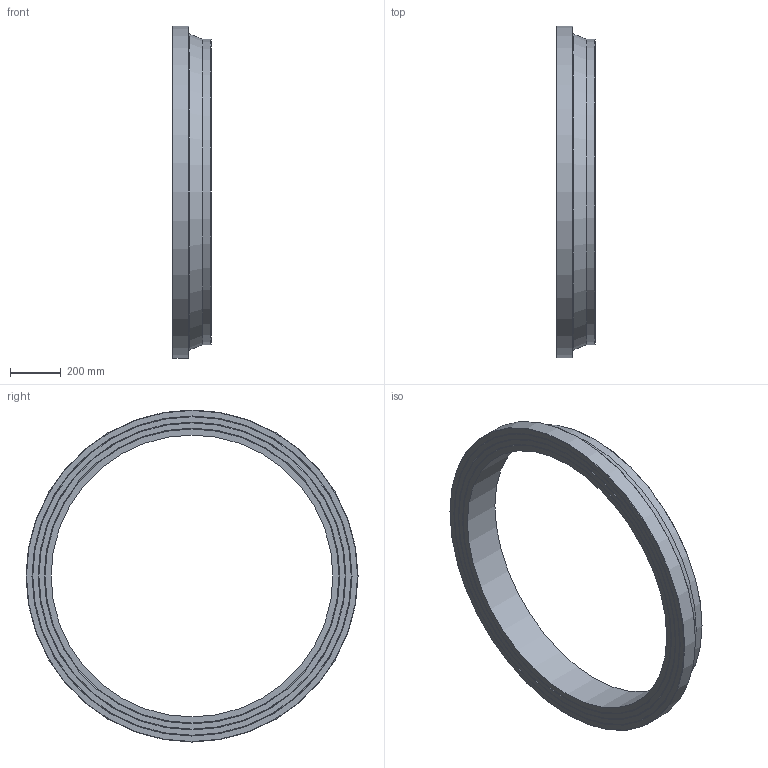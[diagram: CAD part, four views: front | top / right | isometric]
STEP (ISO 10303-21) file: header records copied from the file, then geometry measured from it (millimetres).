
FILE_DESCRIPTION(/* description */ ('Unknown'),/* implementation_level */ '2;1');
FILE_NAME(/* name */ 'CCP1200A',/* time_stamp */ '2022-04-05T11:10:27+02:00',/* author */ ('Unknown'),/* organization */ ('Unknown'),/* preprocessor_version */ 'ST-DEVELOPER v18.1',/* originating_system */ 'Solid Edge',/* authorisation */ 'Unknown');
FILE_SCHEMA (('AUTOMOTIVE_DESIGN {1 0 10303 214 3 1 1}'));
Length unit declared in the file: millimetre
Products named in the file (1): CCP1200A
Bounding box: 153 x 1305 x 1305 mm (x, y, z)
Volume: 40818902.7 mm3; surface area: 1801167.8 mm2
Topology: 1 solids, 1 shells, 20 faces, 35 edges, 21 vertices
Faces by surface type: cone 10, plane 6, cylinder 3, torus 1
Full cylindrical faces by diameter (mm): 1108.2 x1, 1200 x1, 1305 x1
Entity records: 438 total; most frequent: DIRECTION 82, CARTESIAN_POINT 61, AXIS2_PLACEMENT_3D 41, ORIENTED_EDGE 40, EDGE_LOOP 40, FACE_BOUND 40, EDGE_CURVE 20, VERTEX_POINT 20
